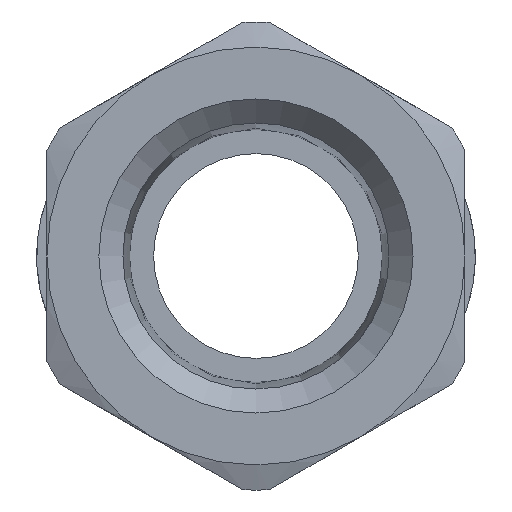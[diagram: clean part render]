
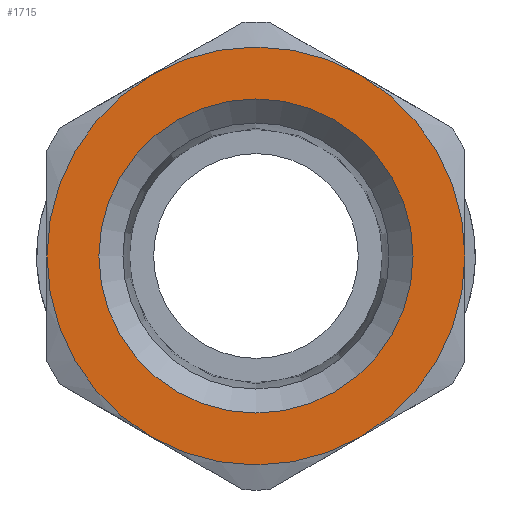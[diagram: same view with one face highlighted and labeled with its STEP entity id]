
A CAD part, front view. The second image highlights one B-rep face of the part: STEP entity #1715.
In plain terms, the highlighted planar face has unit normal (0, -1, 0).
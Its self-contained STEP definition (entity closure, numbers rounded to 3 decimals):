
#1050=CARTESIAN_POINT('',(-3.572,-23.,6.187));
#1051=VERTEX_POINT('',#1050);
#1074=CARTESIAN_POINT('',(-7.144,-23.,0.));
#1075=VERTEX_POINT('',#1074);
#1089=CARTESIAN_POINT('',(0.0,-23.,0.0));
#1090=DIRECTION('',(0.0,-1.0,0.0));
#1091=DIRECTION('',(0.0,0.0,1.0));
#1092=AXIS2_PLACEMENT_3D('',#1089,#1090,#1091);
#1093=CIRCLE('',#1092,7.144);
#1094=EDGE_CURVE('',#1051,#1075,#1093,.T.);
#1106=CARTESIAN_POINT('',(3.572,-23.,6.187));
#1107=VERTEX_POINT('',#1106);
#1143=CARTESIAN_POINT('',(0.0,-23.,0.0));
#1144=DIRECTION('',(0.0,-1.0,0.0));
#1145=DIRECTION('',(0.0,0.0,1.0));
#1146=AXIS2_PLACEMENT_3D('',#1143,#1144,#1145);
#1147=CIRCLE('',#1146,7.144);
#1148=EDGE_CURVE('',#1107,#1051,#1147,.T.);
#1158=CARTESIAN_POINT('',(-3.572,-23.,-6.187));
#1159=VERTEX_POINT('',#1158);
#1175=CARTESIAN_POINT('',(0.0,-23.,0.0));
#1176=DIRECTION('',(0.0,-1.0,0.0));
#1177=DIRECTION('',(0.0,0.0,1.0));
#1178=AXIS2_PLACEMENT_3D('',#1175,#1176,#1177);
#1179=CIRCLE('',#1178,7.144);
#1180=EDGE_CURVE('',#1075,#1159,#1179,.T.);
#1214=CARTESIAN_POINT('',(7.144,-23.,0.));
#1215=VERTEX_POINT('',#1214);
#1251=CARTESIAN_POINT('',(0.0,-23.,0.0));
#1252=DIRECTION('',(0.0,-1.0,0.0));
#1253=DIRECTION('',(0.0,0.0,1.0));
#1254=AXIS2_PLACEMENT_3D('',#1251,#1252,#1253);
#1255=CIRCLE('',#1254,7.144);
#1256=EDGE_CURVE('',#1215,#1107,#1255,.T.);
#1266=CARTESIAN_POINT('',(3.572,-23.,-6.187));
#1267=VERTEX_POINT('',#1266);
#1283=CARTESIAN_POINT('',(0.0,-23.,0.0));
#1284=DIRECTION('',(0.0,-1.0,0.0));
#1285=DIRECTION('',(0.0,0.0,1.0));
#1286=AXIS2_PLACEMENT_3D('',#1283,#1284,#1285);
#1287=CIRCLE('',#1286,7.144);
#1288=EDGE_CURVE('',#1159,#1267,#1287,.T.);
#1335=CARTESIAN_POINT('',(0.0,-23.,0.0));
#1336=DIRECTION('',(0.0,-1.0,0.0));
#1337=DIRECTION('',(0.0,0.0,1.0));
#1338=AXIS2_PLACEMENT_3D('',#1335,#1336,#1337);
#1339=CIRCLE('',#1338,7.144);
#1340=EDGE_CURVE('',#1267,#1215,#1339,.T.);
#1691=CARTESIAN_POINT('',(1.75,-23.,0.0));
#1692=DIRECTION('',(0.0,-1.0,0.0));
#1693=DIRECTION('',(0.0,0.0,-1.0));
#1694=AXIS2_PLACEMENT_3D('',#1691,#1692,#1693);
#1695=PLANE('',#1694);
#1696=ORIENTED_EDGE('',*,*,#1094,.T.);
#1697=ORIENTED_EDGE('',*,*,#1180,.T.);
#1698=ORIENTED_EDGE('',*,*,#1288,.T.);
#1699=ORIENTED_EDGE('',*,*,#1340,.T.);
#1700=ORIENTED_EDGE('',*,*,#1256,.T.);
#1701=ORIENTED_EDGE('',*,*,#1148,.T.);
#1702=EDGE_LOOP('',(#1696,#1697,#1698,#1699,#1700,#1701));
#1703=FACE_OUTER_BOUND('',#1702,.T.);
#1704=CARTESIAN_POINT('',(0.,-23.,5.369));
#1705=VERTEX_POINT('',#1704);
#1706=CARTESIAN_POINT('',(0.0,-23.,0.0));
#1707=DIRECTION('',(0.0,-1.0,0.0));
#1708=DIRECTION('',(0.0,0.0,-1.0));
#1709=AXIS2_PLACEMENT_3D('',#1706,#1707,#1708);
#1710=CIRCLE('',#1709,5.369);
#1711=EDGE_CURVE('',#1705,#1705,#1710,.T.);
#1712=ORIENTED_EDGE('',*,*,#1711,.F.);
#1713=EDGE_LOOP('',(#1712));
#1714=FACE_BOUND('',#1713,.T.);
#1715=ADVANCED_FACE('',(#1703,#1714),#1695,.T.);
